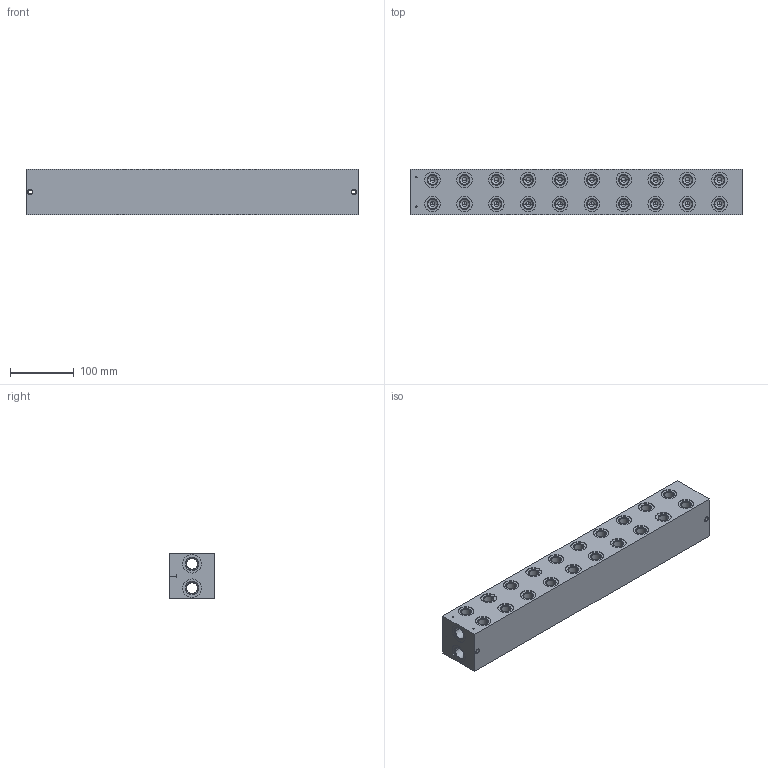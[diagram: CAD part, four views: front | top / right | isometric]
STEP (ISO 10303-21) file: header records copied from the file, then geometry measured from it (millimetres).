
FILE_DESCRIPTION((''),'2;1');
FILE_NAME('1000060227','2024-02-06T',('l.soukupova'),(''),'PRO/ENGINEER BY PARAMETRIC TECHNOLOGY CORPORATION, 2015440','PRO/ENGINEER BY PARAMETRIC TECHNOLOGY CORPORATION, 2015440','');
FILE_SCHEMA(('AUTOMOTIVE_DESIGN { 1 0 10303 214 1 1 1 1 }'));
Length unit declared in the file: millimetre
Products named in the file (1): 1000060227
Bounding box: 521 x 71 x 71 mm (x, y, z)
Volume: 2227672.5 mm3; surface area: 303950.5 mm2
Topology: 1 solids, 71 shells, 798 faces, 2773 edges, 2387 vertices
Faces by surface type: cylinder 464, cone 232, plane 102
Entity records: 45064 total; most frequent: CARTESIAN_POINT 12999, DIRECTION 5095, ORIENTED_EDGE 3528, PRESENTATION_STYLE_ASSIGNMENT 2868, STYLED_ITEM 2862, CURVE_STYLE 2791, EDGE_CURVE 1904, AXIS2_PLACEMENT_3D 1825
